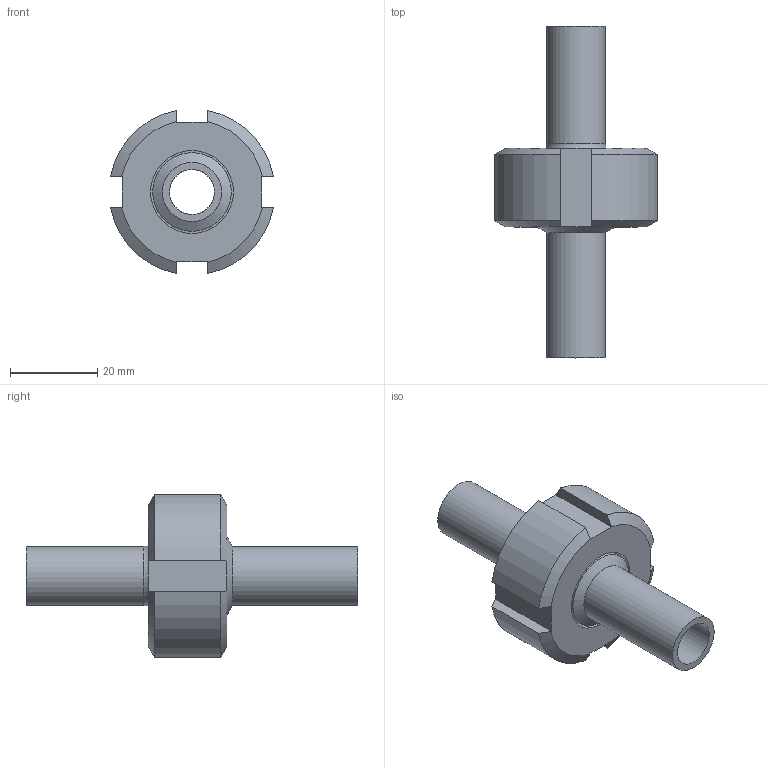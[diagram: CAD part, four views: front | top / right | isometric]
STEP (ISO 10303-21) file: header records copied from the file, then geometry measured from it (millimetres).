
FILE_DESCRIPTION(/* description */ ('Aseptik_Rohrverbindung_DIN 11864-1-A_13,5x1,6_L76'),/* implementation_level */ '2;1');
FILE_NAME(/* name */ 'L:\Normteile\N0024 - Rohrverbindungen\N0024_002 - DIN11864\N0024_002_001 - geschraubt\N0024_002_001\Step Marketing\DIN11864-1-A_13,5x1,6_L76.stp',/* time_stamp */ '2021-08-31T10:22:33+02:00',/* author */ ('Csasse'),/* organization */ ('Dockweiler AG'),/* preprocessor_version */ 'ST-DEVELOPER v18',/* originating_system */ 'Autodesk Inventor 2020',/* authorisation */ '');
FILE_SCHEMA (('AUTOMOTIVE_DESIGN { 1 0 10303 214 3 1 1 }'));
Length unit declared in the file: millimetre
Products named in the file (5): N0024_002_001_39; N0003_007_001_11; N0003_007_002_11; N0005_005_002_001_12; N0009_009
Assembly tree (4 placements, depth 2):
  N0024_002_001_39
    N0003_007_001_11
    N0003_007_002_11
    N0005_005_002_001_12
    N0009_009
Bounding box: 37.35 x 76 x 37.35 mm (x, y, z)
Volume: 21527.8 mm3; surface area: 14026.2 mm2
Topology: 4 solids, 4 shells, 66 faces, 192 edges, 138 vertices
Faces by surface type: plane 24, cone 16, cylinder 14, torus 12
Full cylindrical faces by diameter (mm): 10.3 x2, 13.5 x2, 18 x1, 19 x1, 21.9 x1, 22 x1, 24.825 x1, 28.318 x1
Entity records: 2538 total; most frequent: DIRECTION 444, CARTESIAN_POINT 437, ORIENTED_EDGE 384, AXIS2_PLACEMENT_3D 193, EDGE_CURVE 192, VERTEX_POINT 138, CIRCLE 118, EDGE_LOOP 78
